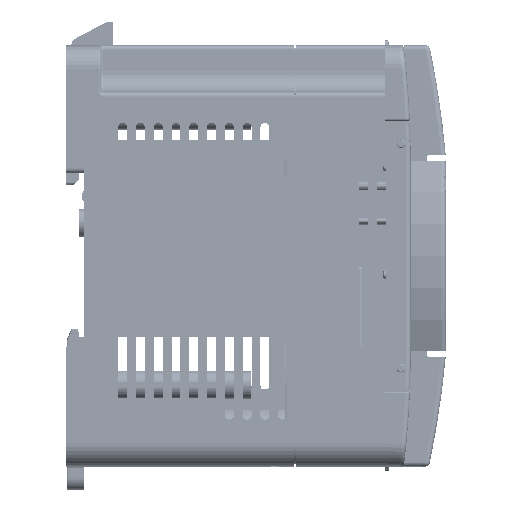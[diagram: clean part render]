
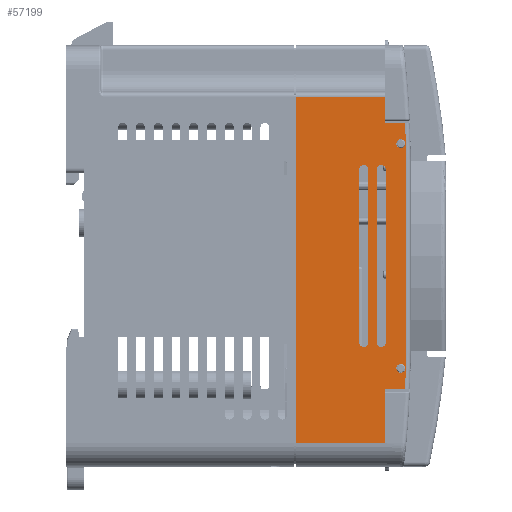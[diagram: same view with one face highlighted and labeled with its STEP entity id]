
A CAD part, left-side view. The second image highlights one B-rep face of the part: STEP entity #57199.
In plain terms, the highlighted planar face has unit normal (-1, 0, 0).
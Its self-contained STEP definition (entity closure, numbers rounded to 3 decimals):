
#42768=DIRECTION('',(0.,-1.,0.));
#42769=VECTOR('',#42768,19.);
#42770=CARTESIAN_POINT('',(-67.5,9.,-34.));
#42771=LINE('',#42770,#42769);
#42776=DIRECTION('',(0.,0.,-1.));
#42777=VECTOR('',#42776,74.);
#42778=CARTESIAN_POINT('',(-67.5,-10.,40.));
#42779=LINE('',#42778,#42777);
#42780=CARTESIAN_POINT('',(-67.5,-185.499,-19.748));
#42781=DIRECTION('',(1.,0.,0.));
#42782=DIRECTION('',(0.,0.999,-0.044));
#42783=AXIS2_PLACEMENT_3D('',#42780,#42781,#42782);
#42785=CARTESIAN_POINT('',(-67.5,-185.499,19.748));
#42786=DIRECTION('',(1.,0.,0.));
#42787=DIRECTION('',(0.,1.,0.002));
#42788=AXIS2_PLACEMENT_3D('',#42785,#42786,#42787);
#42790=DIRECTION('',(0.,-1.,0.));
#42791=VECTOR('',#42790,4.308);
#42792=CARTESIAN_POINT('',(-67.5,13.308,28.5));
#42793=LINE('',#42792,#42791);
#42794=CARTESIAN_POINT('',(-67.5,8.25,-18.5));
#42795=DIRECTION('',(-1.,0.,0.));
#42796=DIRECTION('',(0.,1.,0.));
#42797=AXIS2_PLACEMENT_3D('',#42794,#42795,#42796);
#42799=CARTESIAN_POINT('',(-67.5,8.25,-18.5));
#42800=DIRECTION('',(-1.,0.,0.));
#42801=DIRECTION('',(0.,0.,-1.));
#42802=AXIS2_PLACEMENT_3D('',#42799,#42800,#42801);
#42804=CARTESIAN_POINT('',(-67.5,8.25,18.5));
#42805=DIRECTION('',(-1.,0.,0.));
#42806=DIRECTION('',(0.,-1.,0.));
#42807=AXIS2_PLACEMENT_3D('',#42804,#42805,#42806);
#42809=CARTESIAN_POINT('',(-67.5,8.25,18.5));
#42810=DIRECTION('',(-1.,0.,0.));
#42811=DIRECTION('',(0.,0.,1.));
#42812=AXIS2_PLACEMENT_3D('',#42809,#42810,#42811);
#42814=CARTESIAN_POINT('',(-67.5,12.4,24.));
#42815=DIRECTION('',(-1.,0.,0.));
#42816=DIRECTION('',(0.,0.,1.));
#42817=AXIS2_PLACEMENT_3D('',#42814,#42815,#42816);
#42819=CARTESIAN_POINT('',(-67.5,12.4,24.));
#42820=DIRECTION('',(-1.,0.,0.));
#42821=DIRECTION('',(0.,0.,-1.));
#42822=AXIS2_PLACEMENT_3D('',#42819,#42820,#42821);
#42824=CARTESIAN_POINT('',(-67.5,12.4,-24.));
#42825=DIRECTION('',(-1.,0.,0.));
#42826=DIRECTION('',(0.,0.,1.));
#42827=AXIS2_PLACEMENT_3D('',#42824,#42825,#42826);
#42829=CARTESIAN_POINT('',(-67.5,12.4,-24.));
#42830=DIRECTION('',(-1.,0.,0.));
#42831=DIRECTION('',(0.,0.,-1.));
#42832=AXIS2_PLACEMENT_3D('',#42829,#42830,#42831);
#42834=CARTESIAN_POINT('',(-67.5,4.45,-18.5));
#42835=DIRECTION('',(-1.,0.,0.));
#42836=DIRECTION('',(0.,1.,0.));
#42837=AXIS2_PLACEMENT_3D('',#42834,#42835,#42836);
#42839=CARTESIAN_POINT('',(-67.5,4.45,-18.5));
#42840=DIRECTION('',(-1.,0.,0.));
#42841=DIRECTION('',(0.,0.,-1.));
#42842=AXIS2_PLACEMENT_3D('',#42839,#42840,#42841);
#42844=CARTESIAN_POINT('',(-67.5,4.45,18.5));
#42845=DIRECTION('',(-1.,0.,0.));
#42846=DIRECTION('',(0.,-1.,0.));
#42847=AXIS2_PLACEMENT_3D('',#42844,#42845,#42846);
#42849=CARTESIAN_POINT('',(-67.5,4.45,18.5));
#42850=DIRECTION('',(-1.,0.,0.));
#42851=DIRECTION('',(0.,0.,1.));
#42852=AXIS2_PLACEMENT_3D('',#42849,#42850,#42851);
#42858=DIRECTION('',(0.,1.,0.));
#42859=VECTOR('',#42858,19.);
#42860=CARTESIAN_POINT('',(-67.5,-10.,40.));
#42861=LINE('',#42860,#42859);
#44342=DIRECTION('',(0.,0.,-1.));
#44343=VECTOR('',#44342,5.5);
#44344=CARTESIAN_POINT('',(-67.5,9.,-28.5));
#44345=LINE('',#44344,#44343);
#44439=DIRECTION('',(0.,-1.,0.));
#44440=VECTOR('',#44439,4.308);
#44441=CARTESIAN_POINT('',(-67.5,13.308,-28.5));
#44442=LINE('',#44441,#44440);
#44456=DIRECTION('',(0.,0.,-1.));
#44457=VECTOR('',#44456,40.397);
#44458=CARTESIAN_POINT('',(-67.5,13.5,20.199));
#44459=LINE('',#44458,#44457);
#45175=DIRECTION('',(0.,0.,-1.));
#45176=VECTOR('',#45175,11.5);
#45177=CARTESIAN_POINT('',(-67.5,9.,40.));
#45178=LINE('',#45177,#45176);
#50245=DIRECTION('',(0.,0.,-1.));
#50246=VECTOR('',#50245,37.);
#50247=CARTESIAN_POINT('',(-67.5,7.3,18.5));
#50248=LINE('',#50247,#50246);
#50277=DIRECTION('',(0.,0.,1.));
#50278=VECTOR('',#50277,37.);
#50279=CARTESIAN_POINT('',(-67.5,9.2,-18.5));
#50280=LINE('',#50279,#50278);
#50321=DIRECTION('',(0.,0.,1.));
#50322=VECTOR('',#50321,37.);
#50323=CARTESIAN_POINT('',(-67.5,5.4,-18.5));
#50324=LINE('',#50323,#50322);
#50345=DIRECTION('',(0.,0.,-1.));
#50346=VECTOR('',#50345,37.);
#50347=CARTESIAN_POINT('',(-67.5,3.5,18.5));
#50348=LINE('',#50347,#50346);
#53738=CARTESIAN_POINT('',(-67.5,-10.,-34.));
#53739=VERTEX_POINT('',#53738);
#53740=CARTESIAN_POINT('',(-67.5,-10.,40.));
#53741=VERTEX_POINT('',#53740);
#54457=CARTESIAN_POINT('',(-67.5,7.3,18.5));
#54458=VERTEX_POINT('',#54457);
#54459=CARTESIAN_POINT('',(-67.5,7.3,-18.5));
#54460=VERTEX_POINT('',#54459);
#54473=CARTESIAN_POINT('',(-67.5,3.5,18.5));
#54474=VERTEX_POINT('',#54473);
#54475=CARTESIAN_POINT('',(-67.5,3.5,-18.5));
#54476=VERTEX_POINT('',#54475);
#54477=CARTESIAN_POINT('',(-67.5,5.4,-18.5));
#54478=VERTEX_POINT('',#54477);
#54479=CARTESIAN_POINT('',(-67.5,5.4,18.5));
#54480=VERTEX_POINT('',#54479);
#54481=CARTESIAN_POINT('',(-67.5,9.2,-18.5));
#54482=VERTEX_POINT('',#54481);
#54483=CARTESIAN_POINT('',(-67.5,9.2,18.5));
#54484=VERTEX_POINT('',#54483);
#54485=CARTESIAN_POINT('',(-67.5,8.25,-19.45));
#54486=VERTEX_POINT('',#54485);
#54487=CARTESIAN_POINT('',(-67.5,9.,40.));
#54488=VERTEX_POINT('',#54487);
#54489=CARTESIAN_POINT('',(-67.5,9.,-34.));
#54490=VERTEX_POINT('',#54489);
#54491=CARTESIAN_POINT('',(-67.5,9.,-28.5));
#54492=VERTEX_POINT('',#54491);
#54493=CARTESIAN_POINT('',(-67.5,13.308,-28.5));
#54494=VERTEX_POINT('',#54493);
#54495=CARTESIAN_POINT('',(-67.5,13.5,-20.198));
#54496=VERTEX_POINT('',#54495);
#54497=CARTESIAN_POINT('',(-67.5,13.5,20.199));
#54498=VERTEX_POINT('',#54497);
#54499=CARTESIAN_POINT('',(-67.5,13.308,28.5));
#54500=VERTEX_POINT('',#54499);
#54501=CARTESIAN_POINT('',(-67.5,9.,28.5));
#54502=VERTEX_POINT('',#54501);
#54503=CARTESIAN_POINT('',(-67.5,8.25,19.45));
#54504=VERTEX_POINT('',#54503);
#54505=CARTESIAN_POINT('',(-67.5,12.4,24.95));
#54506=CARTESIAN_POINT('',(-67.5,12.4,23.05));
#54507=VERTEX_POINT('',#54505);
#54508=VERTEX_POINT('',#54506);
#54509=CARTESIAN_POINT('',(-67.5,12.4,-23.05));
#54510=CARTESIAN_POINT('',(-67.5,12.4,-24.95));
#54511=VERTEX_POINT('',#54509);
#54512=VERTEX_POINT('',#54510);
#54513=CARTESIAN_POINT('',(-67.5,4.45,-19.45));
#54514=VERTEX_POINT('',#54513);
#54515=CARTESIAN_POINT('',(-67.5,4.45,19.45));
#54516=VERTEX_POINT('',#54515);
#57133=CARTESIAN_POINT('',(-67.5,0.,-45.));
#57134=DIRECTION('',(-1.,0.,0.));
#57135=DIRECTION('',(0.,0.,1.));
#57136=AXIS2_PLACEMENT_3D('',#57133,#57134,#57135);
#57137=PLANE('',#57136);
#57139=ORIENTED_EDGE('',*,*,#57138,.F.);
#57141=ORIENTED_EDGE('',*,*,#57140,.T.);
#57142=ORIENTED_EDGE('',*,*,#57123,.F.);
#57144=ORIENTED_EDGE('',*,*,#57143,.F.);
#57146=ORIENTED_EDGE('',*,*,#57145,.F.);
#57148=ORIENTED_EDGE('',*,*,#57147,.T.);
#57150=ORIENTED_EDGE('',*,*,#57149,.F.);
#57152=ORIENTED_EDGE('',*,*,#57151,.T.);
#57154=ORIENTED_EDGE('',*,*,#57153,.T.);
#57156=ORIENTED_EDGE('',*,*,#57155,.F.);
#57157=EDGE_LOOP('',(#57139,#57141,#57142,#57144,#57146,#57148,#57150,#57152,
#57154,#57156));
#57158=FACE_OUTER_BOUND('',#57157,.F.);
#57160=ORIENTED_EDGE('',*,*,#57159,.T.);
#57162=ORIENTED_EDGE('',*,*,#57161,.T.);
#57164=ORIENTED_EDGE('',*,*,#57163,.F.);
#57166=ORIENTED_EDGE('',*,*,#57165,.T.);
#57168=ORIENTED_EDGE('',*,*,#57167,.T.);
#57170=ORIENTED_EDGE('',*,*,#57169,.F.);
#57171=EDGE_LOOP('',(#57160,#57162,#57164,#57166,#57168,#57170));
#57172=FACE_BOUND('',#57171,.F.);
#57174=ORIENTED_EDGE('',*,*,#57173,.T.);
#57176=ORIENTED_EDGE('',*,*,#57175,.T.);
#57177=EDGE_LOOP('',(#57174,#57176));
#57178=FACE_BOUND('',#57177,.F.);
#57180=ORIENTED_EDGE('',*,*,#57179,.T.);
#57182=ORIENTED_EDGE('',*,*,#57181,.T.);
#57183=EDGE_LOOP('',(#57180,#57182));
#57184=FACE_BOUND('',#57183,.F.);
#57186=ORIENTED_EDGE('',*,*,#57185,.T.);
#57188=ORIENTED_EDGE('',*,*,#57187,.T.);
#57190=ORIENTED_EDGE('',*,*,#57189,.F.);
#57192=ORIENTED_EDGE('',*,*,#57191,.T.);
#57194=ORIENTED_EDGE('',*,*,#57193,.T.);
#57196=ORIENTED_EDGE('',*,*,#57195,.F.);
#57197=EDGE_LOOP('',(#57186,#57188,#57190,#57192,#57194,#57196));
#57198=FACE_BOUND('',#57197,.F.);
#57199=ADVANCED_FACE('',(#57158,#57172,#57178,#57184,#57198),#57137,.T.);
#42784=CIRCLE('',#42783,199.);
#42789=CIRCLE('',#42788,199.);
#42798=CIRCLE('',#42797,0.95);
#42803=CIRCLE('',#42802,0.95);
#42808=CIRCLE('',#42807,0.95);
#42813=CIRCLE('',#42812,0.95);
#42818=CIRCLE('',#42817,0.95);
#42823=CIRCLE('',#42822,0.95);
#42828=CIRCLE('',#42827,0.95);
#42833=CIRCLE('',#42832,0.95);
#42838=CIRCLE('',#42837,0.95);
#42843=CIRCLE('',#42842,0.95);
#42848=CIRCLE('',#42847,0.95);
#42853=CIRCLE('',#42852,0.95);
#57123=EDGE_CURVE('',#54490,#53739,#42771,.T.);
#57138=EDGE_CURVE('',#53741,#54488,#42861,.T.);
#57140=EDGE_CURVE('',#53741,#53739,#42779,.T.);
#57143=EDGE_CURVE('',#54492,#54490,#44345,.T.);
#57145=EDGE_CURVE('',#54494,#54492,#44442,.T.);
#57147=EDGE_CURVE('',#54494,#54496,#42784,.T.);
#57149=EDGE_CURVE('',#54498,#54496,#44459,.T.);
#57151=EDGE_CURVE('',#54498,#54500,#42789,.T.);
#57153=EDGE_CURVE('',#54500,#54502,#42793,.T.);
#57155=EDGE_CURVE('',#54488,#54502,#45178,.T.);
#57159=EDGE_CURVE('',#54482,#54486,#42798,.T.);
#57161=EDGE_CURVE('',#54486,#54460,#42803,.T.);
#57163=EDGE_CURVE('',#54458,#54460,#50248,.T.);
#57165=EDGE_CURVE('',#54458,#54504,#42808,.T.);
#57167=EDGE_CURVE('',#54504,#54484,#42813,.T.);
#57169=EDGE_CURVE('',#54482,#54484,#50280,.T.);
#57173=EDGE_CURVE('',#54507,#54508,#42818,.T.);
#57175=EDGE_CURVE('',#54508,#54507,#42823,.T.);
#57179=EDGE_CURVE('',#54511,#54512,#42828,.T.);
#57181=EDGE_CURVE('',#54512,#54511,#42833,.T.);
#57185=EDGE_CURVE('',#54478,#54514,#42838,.T.);
#57187=EDGE_CURVE('',#54514,#54476,#42843,.T.);
#57189=EDGE_CURVE('',#54474,#54476,#50348,.T.);
#57191=EDGE_CURVE('',#54474,#54516,#42848,.T.);
#57193=EDGE_CURVE('',#54516,#54480,#42853,.T.);
#57195=EDGE_CURVE('',#54478,#54480,#50324,.T.);
